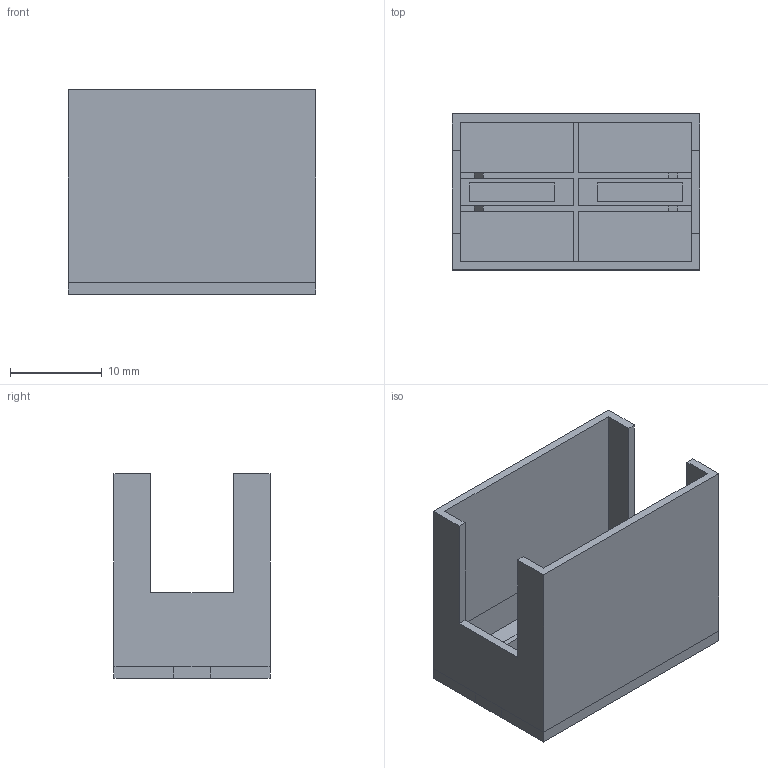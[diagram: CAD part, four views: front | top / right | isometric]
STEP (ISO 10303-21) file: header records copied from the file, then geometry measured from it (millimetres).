
FILE_DESCRIPTION(('FreeCAD Model'),'2;1');
FILE_NAME('Open CASCADE Shape Model','2025-03-09T21:53:29',(''),(''), 'Open CASCADE STEP processor 7.8','FreeCAD','Unknown');
FILE_SCHEMA(('AUTOMOTIVE_DESIGN { 1 0 10303 214 1 1 1 1 }'));
Length unit declared in the file: millimetre
Products named in the file (5): Gerade_ohne_Taster; Body; Fahrstrasse; Ausleuchtung_1; Ausleuchtung_2
Assembly tree (4 placements, depth 2):
  Gerade_ohne_Taster
    Body
    Fahrstrasse
    Ausleuchtung_1
    Ausleuchtung_2
Bounding box: 27 x 17 x 22.3 mm (x, y, z)
Volume: 2453.3 mm3; surface area: 4929 mm2
Topology: 4 solids, 4 shells, 108 faces, 272 edges, 172 vertices
Faces by surface type: plane 108
Entity records: 3267 total; most frequent: CARTESIAN_POINT 557, ORIENTED_EDGE 544, DIRECTION 498, EDGE_CURVE 272, LINE 272, VECTOR 272, VERTEX_POINT 172, FACE_BOUND 116
